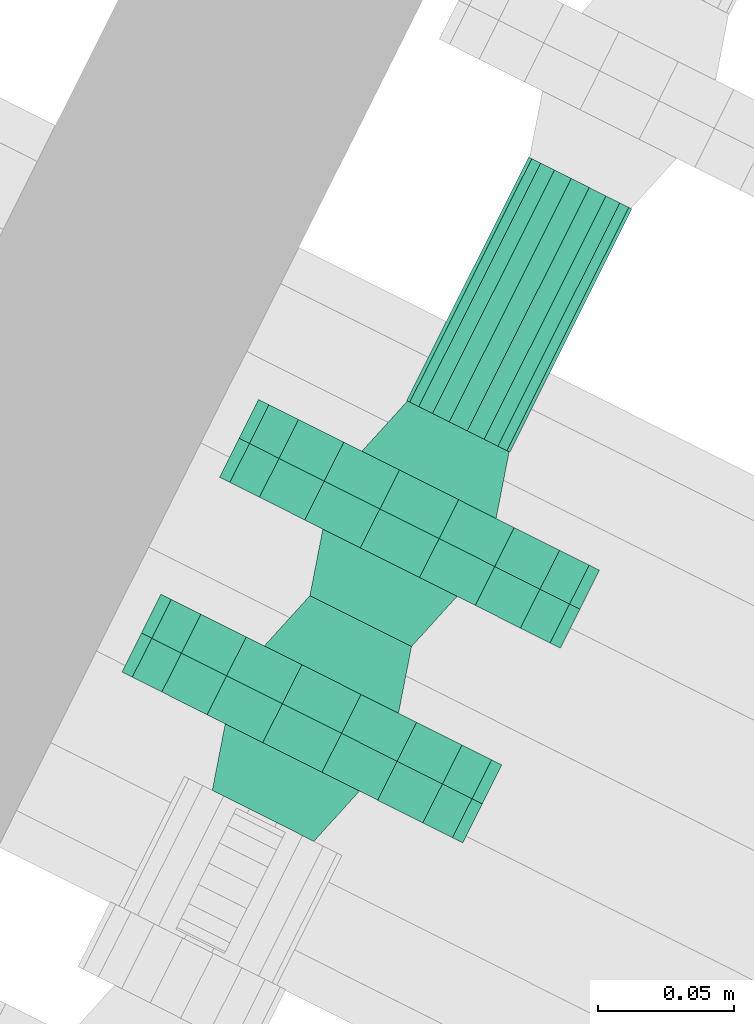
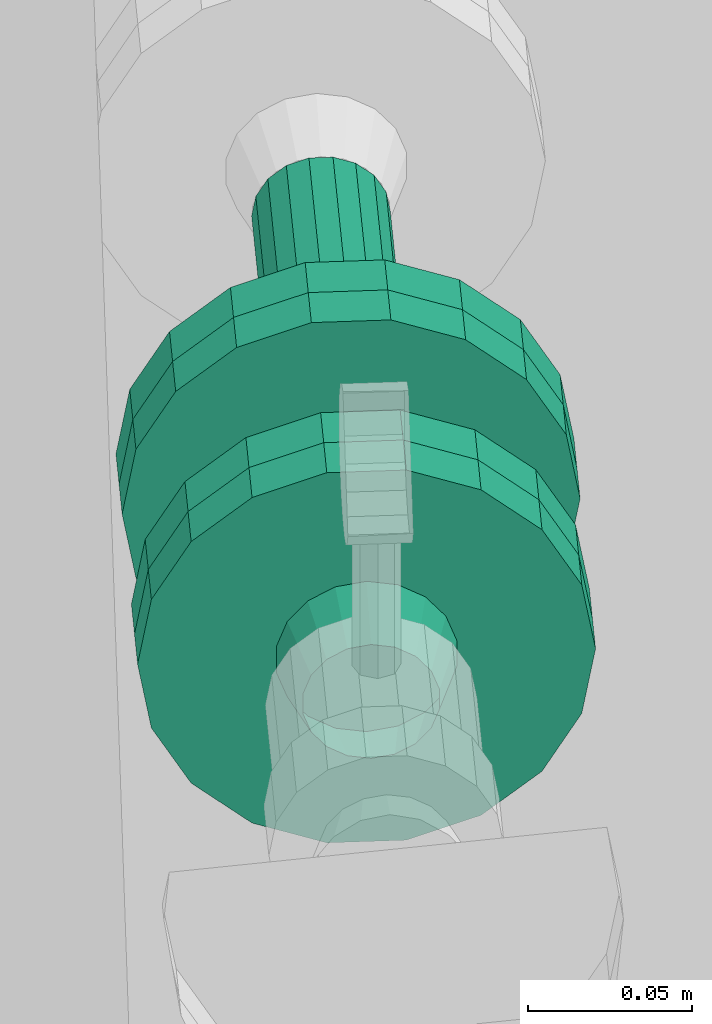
# One storey, part 141 of 206: 4 flow fittings, 1 flow segment.
"""IFC2X3 building model written with IfcOpenShell, lengths in metres."""

from ifc_helpers import new_model, si_unit, derived_unit, direction, frame, origin, place, context, subcontext, project, spatial, face_set, surface_model, source, transform, mapped, material, type_object, type_shapes, element, save


model = new_model("IFC2X3")

# Units and contexts
model_context = context("Model", 3, precision=5.2338327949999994e-05, world=origin(), true_north=direction((0.0, 1.0)))
body_context = subcontext(model_context, "Body", "Model", "MODEL_VIEW")
ifc_project = project(units=[si_unit("LENGTHUNIT", "METRE"), si_unit("AREAUNIT", "SQUARE_METRE"), si_unit("VOLUMEUNIT", "CUBIC_METRE"), si_unit("MASSUNIT", "GRAM", prefix="KILO"), si_unit("PLANEANGLEUNIT", "RADIAN"), derived_unit("THERMALTRANSMITTANCEUNIT", [(si_unit("MASSUNIT", "GRAM", prefix="KILO"), 1), (si_unit("THERMODYNAMICTEMPERATUREUNIT", "KELVIN"), -1), (si_unit("TIMEUNIT", "SECOND"), -3)])], contexts=[model_context])

# Site, building, storey
site_placement = place(None, frame((0.0, 0.0, 0.0), z_axis=(0.0, 0.0, 1.0), x_axis=(0.8939966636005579, -0.4480736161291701, 0.0)))
site = spatial("IfcSite", under=ifc_project, at=site_placement, Name="Default", CompositionType="ELEMENT")
building_placement = place(site_placement, origin())
building = spatial("IfcBuilding", under=site, at=building_placement, CompositionType="ELEMENT")
storey_placement = place(building_placement, origin())
storey = spatial("IfcBuildingStorey", under=building, at=storey_placement, Name="Erdgeschoss", CompositionType="ELEMENT", Elevation=0.0)

# Flow fittings
ifc_material = material(Name="IfcSurfaceStyle #352577")
distribution_element_type_1 = type_object("IfcDistributionElementType", Name="Flansch 608161:Flansch 608161", material=ifc_material)
shared_shape_1 = source(origin(), body_context, "Body", "SurfaceModel", [
    surface_model("IfcFaceBasedSurfaceModel", [(29.151818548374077, 8.765162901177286, 1.5840041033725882), (29.14759703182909, 8.765162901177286, 1.6079455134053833), (29.14759703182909, 8.749162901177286, 1.6079455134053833), (29.151818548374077, 8.749162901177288, 1.5840041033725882), (29.135441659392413, 8.765162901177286, 1.628999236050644), (29.135441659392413, 8.749162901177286, 1.628999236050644), (29.116818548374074, 8.765162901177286, 1.6446258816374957), (29.116818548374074, 8.749162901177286, 1.6446258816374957), (29.093973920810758, 8.765162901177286, 1.6529406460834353), (29.093973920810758, 8.749162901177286, 1.6529406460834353), (29.069663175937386, 8.765162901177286, 1.652940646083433), (29.069663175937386, 8.749162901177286, 1.652940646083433), (29.04681854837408, 8.765162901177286, 1.6446258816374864), (29.04681854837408, 8.749162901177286, 1.6446258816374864), (29.028195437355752, 8.765162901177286, 1.6289992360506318), (29.028195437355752, 8.749162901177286, 1.6289992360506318), (29.016040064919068, 8.765162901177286, 1.6079455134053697), (29.016040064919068, 8.749162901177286, 1.6079455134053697), (29.011818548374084, 8.765162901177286, 1.5840041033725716), (29.011818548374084, 8.749162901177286, 1.5840041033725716), (29.016040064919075, 8.765162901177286, 1.5600626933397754), (29.016040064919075, 8.749162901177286, 1.5600626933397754), (29.028195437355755, 8.765162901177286, 1.5390089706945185), (29.028195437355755, 8.749162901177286, 1.5390089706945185), (29.046818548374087, 8.765162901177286, 1.523382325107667), (29.046818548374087, 8.749162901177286, 1.523382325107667), (29.069663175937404, 8.765162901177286, 1.5150675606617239), (29.069663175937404, 8.749162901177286, 1.5150675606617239), (29.093973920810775, 8.765162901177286, 1.515067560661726), (29.093973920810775, 8.749162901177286, 1.515067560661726), (29.11681854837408, 8.765162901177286, 1.5233823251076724), (29.11681854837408, 8.749162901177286, 1.5233823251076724), (29.135441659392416, 8.765162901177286, 1.5390089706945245), (29.135441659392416, 8.749162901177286, 1.5390089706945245), (29.1475970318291, 8.765162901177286, 1.5600626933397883), (29.1475970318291, 8.749162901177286, 1.5600626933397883), (29.081818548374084, 8.749162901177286, 1.5840041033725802), (29.08181854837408, 8.749162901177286, 1.6120041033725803), (29.07224198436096, 8.749162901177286, 1.610315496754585), (29.07456772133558, 8.725162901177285, 1.6039255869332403), (29.081818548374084, 8.725162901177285, 1.6052041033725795), (29.06382049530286, 8.749162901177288, 1.605453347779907), (29.068191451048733, 8.725162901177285, 1.600244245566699), (29.057569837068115, 8.749162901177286, 1.5980041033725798), (29.06345880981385, 8.725162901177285, 1.5946041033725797), (29.05424393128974, 8.749162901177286, 1.5888662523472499), (29.060940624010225, 8.725162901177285, 1.5876854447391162), (29.05424393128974, 8.749162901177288, 1.5791419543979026), (29.06094062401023, 8.725162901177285, 1.580322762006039), (29.057569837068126, 8.749162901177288, 1.570004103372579), (29.063458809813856, 8.725162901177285, 1.5734041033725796), (29.06382049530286, 8.749162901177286, 1.5625548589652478), (29.068191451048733, 8.725162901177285, 1.5677639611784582), (29.07224198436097, 8.749162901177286, 1.5576927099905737), (29.07456772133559, 8.725162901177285, 1.564082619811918), (29.081818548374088, 8.749162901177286, 1.5560041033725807), (29.081818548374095, 8.725162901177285, 1.5628041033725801), (29.091395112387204, 8.749162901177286, 1.557692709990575), (29.08906937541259, 8.725162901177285, 1.5640826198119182), (29.099816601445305, 8.749162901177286, 1.562554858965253), (29.095445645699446, 8.725162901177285, 1.5677639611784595), (29.106067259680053, 8.749162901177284, 1.570004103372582), (29.100178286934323, 8.725162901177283, 1.5734041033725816), (29.109393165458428, 8.749162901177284, 1.5791419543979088), (29.102696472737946, 8.725162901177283, 1.5803227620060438), (29.109393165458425, 8.749162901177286, 1.588866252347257), (29.10269647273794, 8.725162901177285, 1.587685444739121), (29.106067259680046, 8.749162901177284, 1.5980041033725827), (29.10017828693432, 8.725162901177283, 1.5946041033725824), (29.0998166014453, 8.749162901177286, 1.605453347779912), (29.095445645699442, 8.725162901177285, 1.6002442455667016), (29.0913951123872, 8.749162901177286, 1.6103154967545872), (29.089069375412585, 8.725162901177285, 1.603925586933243)], [face_set([[[0, 1, 2, 3]], [[1, 4, 5, 2]], [[4, 6, 7, 5]], [[6, 8, 9, 7]], [[8, 10, 11, 9]], [[10, 12, 13, 11]], [[12, 14, 15, 13]], [[14, 16, 17, 15]], [[16, 18, 19, 17]], [[18, 20, 21, 19]], [[20, 22, 23, 21]], [[22, 24, 25, 23]], [[24, 26, 27, 25]], [[26, 28, 29, 27]], [[28, 30, 31, 29]], [[30, 32, 33, 31]], [[32, 34, 35, 33]], [[34, 0, 3, 35]], [[36, 35, 3]], [[36, 33, 35]], [[36, 31, 33]], [[36, 29, 31]], [[36, 27, 29]], [[36, 25, 27]], [[36, 23, 25]], [[36, 21, 23]], [[36, 19, 21]], [[36, 17, 19]], [[36, 15, 17]], [[36, 13, 15]], [[36, 11, 13]], [[36, 9, 11]], [[36, 7, 9]], [[36, 5, 7]], [[36, 2, 5]], [[36, 3, 2]], [[37, 38, 39, 40]], [[38, 41, 42, 39]], [[41, 43, 44, 42]], [[43, 45, 46, 44]], [[45, 47, 48, 46]], [[47, 49, 50, 48]], [[49, 51, 52, 50]], [[51, 53, 54, 52]], [[53, 55, 56, 54]], [[55, 57, 58, 56]], [[57, 59, 60, 58]], [[59, 61, 62, 60]], [[61, 63, 64, 62]], [[63, 65, 66, 64]], [[65, 67, 68, 66]], [[67, 69, 70, 68]], [[69, 71, 72, 70]], [[71, 37, 40, 72]]])]),
])
type_shapes(distribution_element_type_1, [shared_shape_1])
flow_fitting_1_placement = place(storey_placement, origin())
element("IfcFlowFitting", 1, at=flow_fitting_1_placement, inside=storey, type_object=distribution_element_type_1, material=ifc_material, Name="Flansch", ObjectType="Flansch", context=body_context, shape_type="MappedRepresentation", body=[
    mapped(shared_shape_1, transform((0.0, 0.0, 0.0), scale=1.0)),
])
distribution_element_type_2 = type_object("IfcDistributionElementType", Name="Flansch 608184:Flansch 608184", material=ifc_material)
shared_shape_2 = source(origin(), body_context, "Body", "SurfaceModel", [
    surface_model("IfcFaceBasedSurfaceModel", [(29.151818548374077, 8.765162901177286, 1.5840041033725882), (29.14759703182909, 8.765162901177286, 1.5600626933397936), (29.14759703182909, 8.781162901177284, 1.5600626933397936), (29.151818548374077, 8.781162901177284, 1.5840041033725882), (29.13544165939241, 8.765162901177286, 1.5390089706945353), (29.13544165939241, 8.781162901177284, 1.5390089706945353), (29.116818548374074, 8.765162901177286, 1.5233823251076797), (29.116818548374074, 8.781162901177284, 1.5233823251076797), (29.093973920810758, 8.765162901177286, 1.5150675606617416), (29.093973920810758, 8.781162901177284, 1.5150675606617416), (29.069663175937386, 8.765162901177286, 1.5150675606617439), (29.069663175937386, 8.781162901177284, 1.5150675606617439), (29.04681854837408, 8.765162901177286, 1.5233823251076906), (29.04681854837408, 8.781162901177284, 1.5233823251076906), (29.02819543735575, 8.765162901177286, 1.539008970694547), (29.02819543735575, 8.781162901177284, 1.539008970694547), (29.016040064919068, 8.765162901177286, 1.5600626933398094), (29.016040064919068, 8.781162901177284, 1.5600626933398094), (29.011818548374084, 8.765162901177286, 1.5840041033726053), (29.011818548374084, 8.781162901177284, 1.5840041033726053), (29.016040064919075, 8.765162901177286, 1.607945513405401), (29.016040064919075, 8.781162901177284, 1.607945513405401), (29.02819543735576, 8.765162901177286, 1.6289992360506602), (29.02819543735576, 8.781162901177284, 1.6289992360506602), (29.046818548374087, 8.765162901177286, 1.6446258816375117), (29.046818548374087, 8.781162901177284, 1.6446258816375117), (29.069663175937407, 8.765162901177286, 1.6529406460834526), (29.069663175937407, 8.781162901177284, 1.6529406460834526), (29.093973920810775, 8.765162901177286, 1.6529406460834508), (29.093973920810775, 8.781162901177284, 1.6529406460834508), (29.11681854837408, 8.765162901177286, 1.6446258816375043), (29.11681854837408, 8.781162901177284, 1.6446258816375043), (29.135441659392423, 8.765162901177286, 1.6289992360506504), (29.135441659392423, 8.781162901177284, 1.6289992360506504), (29.1475970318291, 8.765162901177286, 1.607945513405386), (29.1475970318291, 8.781162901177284, 1.607945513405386), (29.08181854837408, 8.781162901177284, 1.5840041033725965), (29.08181854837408, 8.781162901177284, 1.556004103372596), (29.07224198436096, 8.781162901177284, 1.5576927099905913), (29.074567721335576, 8.805162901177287, 1.564082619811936), (29.08181854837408, 8.805162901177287, 1.5628041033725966), (29.06382049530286, 8.781162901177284, 1.5625548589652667), (29.06819145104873, 8.805162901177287, 1.5677639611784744), (29.057569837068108, 8.781162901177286, 1.570004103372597), (29.063458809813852, 8.805162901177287, 1.5734041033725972), (29.054243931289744, 8.781162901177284, 1.5791419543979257), (29.06094062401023, 8.805162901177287, 1.5803227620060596), (29.05424393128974, 8.781162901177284, 1.588866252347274), (29.06094062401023, 8.805162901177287, 1.5876854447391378), (29.057569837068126, 8.781162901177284, 1.5980041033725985), (29.063458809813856, 8.805162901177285, 1.5946041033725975), (29.06382049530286, 8.781162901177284, 1.6054533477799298), (29.068191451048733, 8.805162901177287, 1.6002442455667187), (29.07224198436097, 8.781162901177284, 1.610315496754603), (29.07456772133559, 8.805162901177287, 1.603925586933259), (29.081818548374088, 8.781162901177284, 1.6120041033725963), (29.081818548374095, 8.805162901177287, 1.6052041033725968), (29.091395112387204, 8.781162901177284, 1.6103154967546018), (29.08906937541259, 8.805162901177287, 1.6039255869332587), (29.099816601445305, 8.781162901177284, 1.6054533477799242), (29.095445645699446, 8.805162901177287, 1.6002442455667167), (29.106067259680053, 8.781162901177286, 1.5980041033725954), (29.100178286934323, 8.805162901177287, 1.5946041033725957), (29.109393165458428, 8.781162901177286, 1.5888662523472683), (29.102696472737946, 8.805162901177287, 1.5876854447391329), (29.109393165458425, 8.781162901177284, 1.57914195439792), (29.10269647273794, 8.805162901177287, 1.5803227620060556), (29.106067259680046, 8.781162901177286, 1.570004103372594), (29.10017828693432, 8.805162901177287, 1.573404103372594), (29.0998166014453, 8.781162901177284, 1.5625548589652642), (29.095445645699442, 8.805162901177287, 1.5677639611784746), (29.0913951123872, 8.781162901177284, 1.5576927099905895), (29.089069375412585, 8.805162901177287, 1.5640826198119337)], [face_set([[[0, 1, 2, 3]], [[1, 4, 5, 2]], [[4, 6, 7, 5]], [[6, 8, 9, 7]], [[8, 10, 11, 9]], [[10, 12, 13, 11]], [[12, 14, 15, 13]], [[14, 16, 17, 15]], [[16, 18, 19, 17]], [[18, 20, 21, 19]], [[20, 22, 23, 21]], [[22, 24, 25, 23]], [[24, 26, 27, 25]], [[26, 28, 29, 27]], [[28, 30, 31, 29]], [[30, 32, 33, 31]], [[32, 34, 35, 33]], [[34, 0, 3, 35]], [[36, 35, 3]], [[36, 33, 35]], [[36, 31, 33]], [[36, 29, 31]], [[36, 27, 29]], [[36, 25, 27]], [[36, 23, 25]], [[36, 21, 23]], [[36, 19, 21]], [[36, 17, 19]], [[36, 15, 17]], [[36, 13, 15]], [[36, 11, 13]], [[36, 9, 11]], [[36, 7, 9]], [[36, 5, 7]], [[36, 2, 5]], [[36, 3, 2]], [[37, 38, 39, 40]], [[38, 41, 42, 39]], [[41, 43, 44, 42]], [[43, 45, 46, 44]], [[45, 47, 48, 46]], [[47, 49, 50, 48]], [[49, 51, 52, 50]], [[51, 53, 54, 52]], [[53, 55, 56, 54]], [[55, 57, 58, 56]], [[57, 59, 60, 58]], [[59, 61, 62, 60]], [[61, 63, 64, 62]], [[63, 65, 66, 64]], [[65, 67, 68, 66]], [[67, 69, 70, 68]], [[69, 71, 72, 70]], [[71, 37, 40, 72]]])]),
])
type_shapes(distribution_element_type_2, [shared_shape_2])
flow_fitting_2_placement = place(storey_placement, origin())
element("IfcFlowFitting", 2, at=flow_fitting_2_placement, inside=storey, type_object=distribution_element_type_2, material=ifc_material, Name="Flansch", ObjectType="Flansch", context=body_context, shape_type="MappedRepresentation", body=[
    mapped(shared_shape_2, transform((0.0, 0.0, 0.0), scale=1.0)),
])
distribution_element_type_3 = type_object("IfcDistributionElementType", Name="Flansch 608205:Flansch 608205", material=ifc_material)
shared_shape_3 = source(origin(), body_context, "Body", "SurfaceModel", [
    surface_model("IfcFaceBasedSurfaceModel", [(29.151818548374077, 8.845162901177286, 1.5840041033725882), (29.14759703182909, 8.845162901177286, 1.6079455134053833), (29.14759703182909, 8.829162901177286, 1.6079455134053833), (29.151818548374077, 8.829162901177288, 1.5840041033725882), (29.135441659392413, 8.845162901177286, 1.628999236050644), (29.135441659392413, 8.829162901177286, 1.628999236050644), (29.116818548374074, 8.845162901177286, 1.6446258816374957), (29.116818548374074, 8.829162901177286, 1.6446258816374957), (29.093973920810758, 8.845162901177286, 1.6529406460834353), (29.093973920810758, 8.829162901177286, 1.6529406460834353), (29.069663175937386, 8.845162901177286, 1.652940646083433), (29.069663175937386, 8.829162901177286, 1.652940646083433), (29.04681854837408, 8.845162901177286, 1.6446258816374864), (29.04681854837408, 8.829162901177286, 1.6446258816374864), (29.028195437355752, 8.845162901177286, 1.6289992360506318), (29.028195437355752, 8.829162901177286, 1.6289992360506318), (29.016040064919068, 8.845162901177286, 1.6079455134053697), (29.016040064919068, 8.829162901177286, 1.6079455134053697), (29.011818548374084, 8.845162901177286, 1.5840041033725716), (29.011818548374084, 8.829162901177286, 1.5840041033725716), (29.016040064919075, 8.845162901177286, 1.5600626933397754), (29.016040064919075, 8.829162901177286, 1.5600626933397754), (29.028195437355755, 8.845162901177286, 1.5390089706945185), (29.028195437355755, 8.829162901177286, 1.5390089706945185), (29.046818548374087, 8.845162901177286, 1.523382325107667), (29.046818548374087, 8.829162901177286, 1.523382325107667), (29.069663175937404, 8.845162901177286, 1.5150675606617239), (29.069663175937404, 8.829162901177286, 1.5150675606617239), (29.093973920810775, 8.845162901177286, 1.515067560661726), (29.093973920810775, 8.829162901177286, 1.515067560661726), (29.11681854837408, 8.845162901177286, 1.5233823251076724), (29.11681854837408, 8.829162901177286, 1.5233823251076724), (29.135441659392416, 8.845162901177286, 1.5390089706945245), (29.135441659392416, 8.829162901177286, 1.5390089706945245), (29.1475970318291, 8.845162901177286, 1.5600626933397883), (29.1475970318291, 8.829162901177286, 1.5600626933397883), (29.081818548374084, 8.829162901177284, 1.5840041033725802), (29.08181854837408, 8.829162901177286, 1.6120041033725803), (29.07224198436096, 8.829162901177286, 1.610315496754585), (29.07456772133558, 8.805162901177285, 1.6039255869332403), (29.081818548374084, 8.805162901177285, 1.6052041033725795), (29.06382049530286, 8.829162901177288, 1.605453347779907), (29.068191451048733, 8.805162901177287, 1.600244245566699), (29.057569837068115, 8.829162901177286, 1.5980041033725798), (29.06345880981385, 8.805162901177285, 1.5946041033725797), (29.05424393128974, 8.829162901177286, 1.5888662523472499), (29.060940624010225, 8.805162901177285, 1.5876854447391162), (29.05424393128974, 8.829162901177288, 1.5791419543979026), (29.06094062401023, 8.805162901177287, 1.580322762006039), (29.057569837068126, 8.829162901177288, 1.570004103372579), (29.063458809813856, 8.805162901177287, 1.5734041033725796), (29.06382049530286, 8.829162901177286, 1.5625548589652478), (29.068191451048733, 8.805162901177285, 1.5677639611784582), (29.07224198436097, 8.829162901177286, 1.5576927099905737), (29.07456772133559, 8.805162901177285, 1.564082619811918), (29.081818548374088, 8.829162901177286, 1.5560041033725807), (29.081818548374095, 8.805162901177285, 1.5628041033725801), (29.091395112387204, 8.829162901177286, 1.557692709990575), (29.08906937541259, 8.805162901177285, 1.5640826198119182), (29.099816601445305, 8.829162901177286, 1.562554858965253), (29.095445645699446, 8.805162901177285, 1.5677639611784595), (29.106067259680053, 8.829162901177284, 1.570004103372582), (29.100178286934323, 8.805162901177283, 1.5734041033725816), (29.109393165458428, 8.829162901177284, 1.5791419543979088), (29.102696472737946, 8.805162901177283, 1.5803227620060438), (29.109393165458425, 8.829162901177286, 1.588866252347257), (29.10269647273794, 8.805162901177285, 1.587685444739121), (29.106067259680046, 8.829162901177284, 1.5980041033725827), (29.10017828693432, 8.805162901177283, 1.5946041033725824), (29.0998166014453, 8.829162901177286, 1.605453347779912), (29.095445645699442, 8.805162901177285, 1.6002442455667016), (29.0913951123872, 8.829162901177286, 1.6103154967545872), (29.089069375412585, 8.805162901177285, 1.603925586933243)], [face_set([[[0, 1, 2, 3]], [[1, 4, 5, 2]], [[4, 6, 7, 5]], [[6, 8, 9, 7]], [[8, 10, 11, 9]], [[10, 12, 13, 11]], [[12, 14, 15, 13]], [[14, 16, 17, 15]], [[16, 18, 19, 17]], [[18, 20, 21, 19]], [[20, 22, 23, 21]], [[22, 24, 25, 23]], [[24, 26, 27, 25]], [[26, 28, 29, 27]], [[28, 30, 31, 29]], [[30, 32, 33, 31]], [[32, 34, 35, 33]], [[34, 0, 3, 35]], [[36, 35, 3]], [[36, 33, 35]], [[36, 31, 33]], [[36, 29, 31]], [[36, 27, 29]], [[36, 25, 27]], [[36, 23, 25]], [[36, 21, 23]], [[36, 19, 21]], [[36, 17, 19]], [[36, 15, 17]], [[36, 13, 15]], [[36, 11, 13]], [[36, 9, 11]], [[36, 7, 9]], [[36, 5, 7]], [[36, 2, 5]], [[36, 3, 2]], [[37, 38, 39, 40]], [[38, 41, 42, 39]], [[41, 43, 44, 42]], [[43, 45, 46, 44]], [[45, 47, 48, 46]], [[47, 49, 50, 48]], [[49, 51, 52, 50]], [[51, 53, 54, 52]], [[53, 55, 56, 54]], [[55, 57, 58, 56]], [[57, 59, 60, 58]], [[59, 61, 62, 60]], [[61, 63, 64, 62]], [[63, 65, 66, 64]], [[65, 67, 68, 66]], [[67, 69, 70, 68]], [[69, 71, 72, 70]], [[71, 37, 40, 72]]])]),
])
type_shapes(distribution_element_type_3, [shared_shape_3])
flow_fitting_3_placement = place(storey_placement, origin())
element("IfcFlowFitting", 3, at=flow_fitting_3_placement, inside=storey, type_object=distribution_element_type_3, material=ifc_material, Name="Flansch", ObjectType="Flansch", context=body_context, shape_type="MappedRepresentation", body=[
    mapped(shared_shape_3, transform((0.0, 0.0, 0.0), scale=1.0)),
])
distribution_element_type_4 = type_object("IfcDistributionElementType", Name="Flansch 608228:Flansch 608228", material=ifc_material)
shared_shape_4 = source(origin(), body_context, "Body", "SurfaceModel", [
    surface_model("IfcFaceBasedSurfaceModel", [(29.151818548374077, 8.845162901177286, 1.5840041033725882), (29.14759703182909, 8.845162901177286, 1.5600626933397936), (29.14759703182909, 8.861162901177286, 1.5600626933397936), (29.151818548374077, 8.861162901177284, 1.5840041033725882), (29.13544165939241, 8.845162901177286, 1.5390089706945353), (29.13544165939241, 8.861162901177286, 1.5390089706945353), (29.116818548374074, 8.845162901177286, 1.5233823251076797), (29.116818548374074, 8.861162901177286, 1.5233823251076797), (29.093973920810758, 8.845162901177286, 1.5150675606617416), (29.093973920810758, 8.861162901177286, 1.5150675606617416), (29.069663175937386, 8.845162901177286, 1.5150675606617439), (29.069663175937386, 8.861162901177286, 1.5150675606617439), (29.04681854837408, 8.845162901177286, 1.5233823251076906), (29.04681854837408, 8.861162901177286, 1.5233823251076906), (29.02819543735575, 8.845162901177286, 1.539008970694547), (29.02819543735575, 8.861162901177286, 1.539008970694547), (29.016040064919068, 8.845162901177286, 1.5600626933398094), (29.016040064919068, 8.861162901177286, 1.5600626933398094), (29.011818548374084, 8.845162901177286, 1.5840041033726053), (29.011818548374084, 8.861162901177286, 1.5840041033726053), (29.016040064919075, 8.845162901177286, 1.607945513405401), (29.016040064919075, 8.861162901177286, 1.607945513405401), (29.02819543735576, 8.845162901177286, 1.6289992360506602), (29.02819543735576, 8.861162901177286, 1.6289992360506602), (29.046818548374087, 8.845162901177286, 1.6446258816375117), (29.046818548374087, 8.861162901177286, 1.6446258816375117), (29.069663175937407, 8.845162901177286, 1.6529406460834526), (29.069663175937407, 8.861162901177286, 1.6529406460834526), (29.093973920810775, 8.845162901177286, 1.6529406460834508), (29.093973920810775, 8.861162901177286, 1.6529406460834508), (29.11681854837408, 8.845162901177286, 1.6446258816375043), (29.11681854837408, 8.861162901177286, 1.6446258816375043), (29.135441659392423, 8.845162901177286, 1.6289992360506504), (29.135441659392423, 8.861162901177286, 1.6289992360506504), (29.1475970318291, 8.845162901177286, 1.607945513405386), (29.1475970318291, 8.861162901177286, 1.607945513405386), (29.08181854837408, 8.861162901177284, 1.5840041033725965), (29.08181854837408, 8.861162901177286, 1.5560041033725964), (29.07224198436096, 8.861162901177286, 1.5576927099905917), (29.074567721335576, 8.885162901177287, 1.5640826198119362), (29.08181854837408, 8.885162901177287, 1.562804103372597), (29.06382049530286, 8.861162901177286, 1.562554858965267), (29.06819145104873, 8.885162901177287, 1.5677639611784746), (29.057569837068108, 8.861162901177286, 1.570004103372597), (29.063458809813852, 8.885162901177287, 1.5734041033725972), (29.054243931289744, 8.861162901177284, 1.5791419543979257), (29.06094062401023, 8.885162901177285, 1.5803227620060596), (29.05424393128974, 8.861162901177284, 1.588866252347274), (29.06094062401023, 8.885162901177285, 1.5876854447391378), (29.057569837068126, 8.861162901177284, 1.5980041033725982), (29.063458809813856, 8.885162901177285, 1.5946041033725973), (29.06382049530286, 8.861162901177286, 1.6054533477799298), (29.068191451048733, 8.885162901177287, 1.6002442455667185), (29.07224198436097, 8.861162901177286, 1.6103154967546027), (29.07456772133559, 8.885162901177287, 1.6039255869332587), (29.081818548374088, 8.861162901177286, 1.612004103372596), (29.081818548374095, 8.885162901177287, 1.6052041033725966), (29.091395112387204, 8.861162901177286, 1.6103154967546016), (29.08906937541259, 8.885162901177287, 1.6039255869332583), (29.099816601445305, 8.861162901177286, 1.605453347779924), (29.095445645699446, 8.885162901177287, 1.6002442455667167), (29.106067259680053, 8.861162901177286, 1.5980041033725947), (29.100178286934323, 8.885162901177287, 1.594604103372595), (29.109393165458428, 8.861162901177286, 1.588866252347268), (29.102696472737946, 8.885162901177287, 1.5876854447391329), (29.109393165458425, 8.861162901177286, 1.57914195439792), (29.10269647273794, 8.885162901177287, 1.5803227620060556), (29.10606725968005, 8.861162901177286, 1.570004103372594), (29.10017828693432, 8.885162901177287, 1.5734041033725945), (29.0998166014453, 8.861162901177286, 1.562554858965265), (29.095445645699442, 8.885162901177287, 1.5677639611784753), (29.0913951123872, 8.861162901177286, 1.5576927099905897), (29.089069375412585, 8.885162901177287, 1.564082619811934)], [face_set([[[0, 1, 2, 3]], [[1, 4, 5, 2]], [[4, 6, 7, 5]], [[6, 8, 9, 7]], [[8, 10, 11, 9]], [[10, 12, 13, 11]], [[12, 14, 15, 13]], [[14, 16, 17, 15]], [[16, 18, 19, 17]], [[18, 20, 21, 19]], [[20, 22, 23, 21]], [[22, 24, 25, 23]], [[24, 26, 27, 25]], [[26, 28, 29, 27]], [[28, 30, 31, 29]], [[30, 32, 33, 31]], [[32, 34, 35, 33]], [[34, 0, 3, 35]], [[36, 35, 3]], [[36, 33, 35]], [[36, 31, 33]], [[36, 29, 31]], [[36, 27, 29]], [[36, 25, 27]], [[36, 23, 25]], [[36, 21, 23]], [[36, 19, 21]], [[36, 17, 19]], [[36, 15, 17]], [[36, 13, 15]], [[36, 11, 13]], [[36, 9, 11]], [[36, 7, 9]], [[36, 5, 7]], [[36, 2, 5]], [[36, 3, 2]], [[37, 38, 39, 40]], [[38, 41, 42, 39]], [[41, 43, 44, 42]], [[43, 45, 46, 44]], [[45, 47, 48, 46]], [[47, 49, 50, 48]], [[49, 51, 52, 50]], [[51, 53, 54, 52]], [[53, 55, 56, 54]], [[55, 57, 58, 56]], [[57, 59, 60, 58]], [[59, 61, 62, 60]], [[61, 63, 64, 62]], [[63, 65, 66, 64]], [[65, 67, 68, 66]], [[67, 69, 70, 68]], [[69, 71, 72, 70]], [[71, 37, 40, 72]]])]),
])
type_shapes(distribution_element_type_4, [shared_shape_4])
flow_fitting_4_placement = place(storey_placement, origin())
element("IfcFlowFitting", 4, at=flow_fitting_4_placement, inside=storey, type_object=distribution_element_type_4, material=ifc_material, Name="Flansch", ObjectType="Flansch", context=body_context, shape_type="MappedRepresentation", body=[
    mapped(shared_shape_4, transform((0.0, 0.0, 0.0), scale=1.0)),
])

# Flow segment
distribution_element_type_5 = type_object("IfcDistributionElementType", Name="Stahlrohr nach DIN 2448 608249:Stahlrohr nach DIN 2448 608249", material=ifc_material)
shared_shape_5 = source(origin(), body_context, "Body", "SurfaceModel", [
    surface_model("IfcFaceBasedSurfaceModel", [(29.10301854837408, 8.885162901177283, 1.58400410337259), (29.10174003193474, 8.885162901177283, 1.5767532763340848), (29.10174003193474, 8.985162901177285, 1.5767532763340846), (29.10301854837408, 8.985162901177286, 1.58400410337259), (29.09805869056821, 8.885162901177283, 1.5703770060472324), (29.09805869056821, 8.985162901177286, 1.5703770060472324), (29.092418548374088, 8.885162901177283, 1.5656443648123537), (29.092418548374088, 8.985162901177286, 1.5656443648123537), (29.08549988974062, 8.885162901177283, 1.5631261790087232), (29.08549988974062, 8.985162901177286, 1.5631261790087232), (29.07813720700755, 8.885162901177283, 1.5631261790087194), (29.07813720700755, 8.985162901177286, 1.5631261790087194), (29.07121854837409, 8.885162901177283, 1.565644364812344), (29.07121854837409, 8.985162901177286, 1.565644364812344), (29.065578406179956, 8.885162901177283, 1.57037700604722), (29.065578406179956, 8.985162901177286, 1.57037700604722), (29.06189706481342, 8.885162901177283, 1.5767532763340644), (29.06189706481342, 8.985162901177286, 1.5767532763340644), (29.060618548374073, 8.885162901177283, 1.58400410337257), (29.060618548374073, 8.985162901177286, 1.58400410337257), (29.06189706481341, 8.885162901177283, 1.5912549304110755), (29.06189706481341, 8.985162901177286, 1.5912549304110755), (29.06557840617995, 8.885162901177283, 1.5976312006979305), (29.06557840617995, 8.985162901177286, 1.5976312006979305), (29.07121854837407, 8.885162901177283, 1.6023638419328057), (29.07121854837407, 8.985162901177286, 1.6023638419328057), (29.07813720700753, 8.885162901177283, 1.6048820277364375), (29.07813720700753, 8.985162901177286, 1.6048820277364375), (29.085499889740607, 8.885162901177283, 1.6048820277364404), (29.085499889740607, 8.985162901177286, 1.6048820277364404), (29.09241854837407, 8.885162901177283, 1.6023638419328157), (29.09241854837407, 8.985162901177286, 1.6023638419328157), (29.098058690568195, 8.885162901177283, 1.5976312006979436), (29.098058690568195, 8.985162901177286, 1.5976312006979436), (29.101740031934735, 8.885162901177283, 1.5912549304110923), (29.101740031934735, 8.985162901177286, 1.5912549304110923)], [face_set([[[0, 1, 2, 3]], [[1, 4, 5, 2]], [[4, 6, 7, 5]], [[6, 8, 9, 7]], [[8, 10, 11, 9]], [[10, 12, 13, 11]], [[12, 14, 15, 13]], [[14, 16, 17, 15]], [[16, 18, 19, 17]], [[18, 20, 21, 19]], [[20, 22, 23, 21]], [[22, 24, 25, 23]], [[24, 26, 27, 25]], [[26, 28, 29, 27]], [[28, 30, 31, 29]], [[30, 32, 33, 31]], [[32, 34, 35, 33]], [[34, 0, 3, 35]]])]),
])
type_shapes(distribution_element_type_5, [shared_shape_5])
flow_segment_placement = place(storey_placement, origin())
element("IfcFlowSegment", 5, at=flow_segment_placement, inside=storey, type_object=distribution_element_type_5, material=ifc_material, Name="Stahlrohr nach DIN 2448", ObjectType="Stahlrohr nach DIN 2448", context=body_context, shape_type="MappedRepresentation", body=[
    mapped(shared_shape_5, transform((0.0, 0.0, 0.0), scale=1.0)),
])

save(model, "model.ifc")
